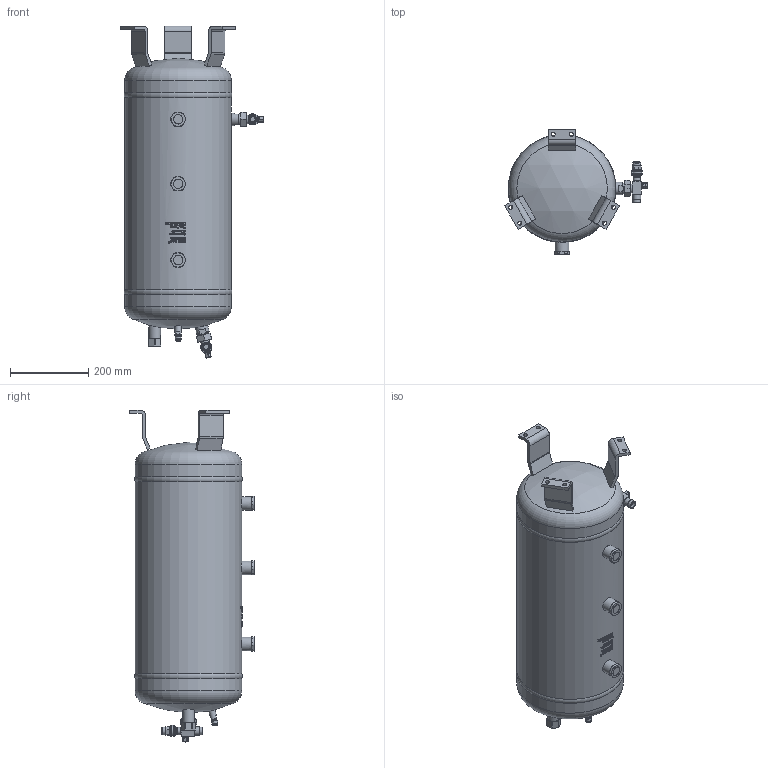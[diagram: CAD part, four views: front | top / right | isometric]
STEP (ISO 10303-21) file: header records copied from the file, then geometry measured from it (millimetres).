
FILE_DESCRIPTION(/* description */ (''),/* implementation_level */ '2;1');
FILE_NAME(/* name */ 'P:\OSA\OSA-32-CDM\OSA-32-CDM.stp',/* time_stamp */ '2017-08-28T15:13:12+02:00',/* author */ ('goerner'),/* organization */ (''),/* preprocessor_version */ 'ST-DEVELOPER v16.1',/* originating_system */ 'Autodesk Inventor 2016',/* authorisation */ '');
FILE_SCHEMA (('AUTOMOTIVE_DESIGN { 1 0 10303 214 3 1 1 }'));
Length unit declared in the file: millimetre
Products named in the file (3): OSA-32-CDM_AG-Kunde; RAV-1_1_4-16-CDM_AG-Kunde; OSA-32-CDM_AG-Kunde_1
Assembly tree (3 placements, depth 2):
  OSA-32-CDM_AG-Kunde_1
    OSA-32-CDM_AG-Kunde
    RAV-1_1_4-16-CDM_AG-Kunde  x2
Bounding box: 365.9 x 318 x 849.69 mm (x, y, z)
Volume: 38979333.2 mm3; surface area: 820888.7 mm2
Topology: 6 solids, 25 shells, 2475 faces, 6583 edges, 4333 vertices
Faces by surface type: plane 1334, cylinder 493, bspline 394, cone 225, torus 24, sphere 5
Full cylindrical faces by diameter (mm): 4 x4, 7.2 x1, 9 x4, 9.4 x4, 10.1 x8, 10.5 x6, 11 x5, 12.9 x1, 13 x4, 13.5 x5, 14.2 x4, 15.7 x1, 16 x1, 16.2 x4, 16.5 x8, 17.3 x4, 19 x12, 19.9 x4, 20 x4, 21 x4, 22 x6, 22.1 x2, 22.22 x2, 23.5 x2, 24 x3, 25 x4, 27 x4, 28.7 x4, 29 x4, 29.5 x6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
Entity records: 75683 total; most frequent: CARTESIAN_POINT 24000, ORIENTED_EDGE 11056, DIRECTION 9719, EDGE_CURVE 5528, VERTEX_POINT 3736, AXIS2_PLACEMENT_3D 3549, LINE 2621, VECTOR 2621
